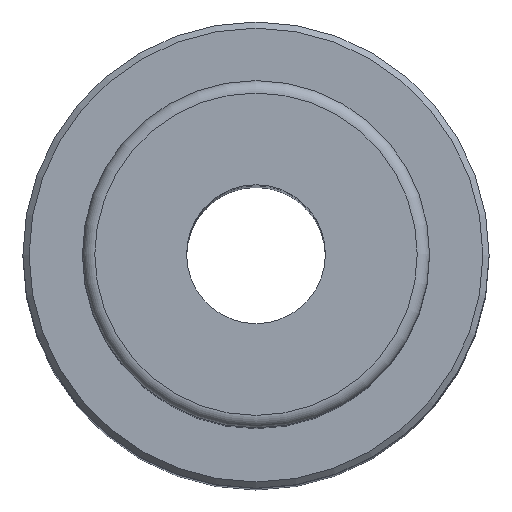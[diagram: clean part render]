
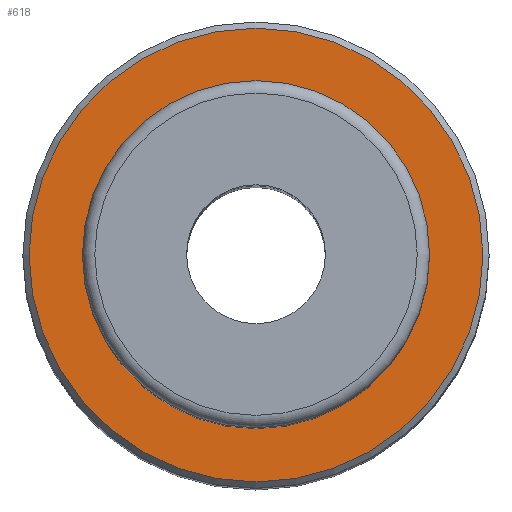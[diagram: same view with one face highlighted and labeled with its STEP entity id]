
A CAD part, top view. The second image highlights one B-rep face of the part: STEP entity #618.
In plain terms, the highlighted planar face has unit normal (0, 0, 1).
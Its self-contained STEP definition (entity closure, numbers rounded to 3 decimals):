
#511 = EDGE_CURVE('',#512,#512,#514,.T.);
#512 = VERTEX_POINT('',#513);
#513 = CARTESIAN_POINT('',(11.2,0.,168.));
#514 = CIRCLE('',#515,11.2);
#515 = AXIS2_PLACEMENT_3D('',#516,#517,#518);
#516 = CARTESIAN_POINT('',(0.,0.,168.));
#517 = DIRECTION('',(0.,0.,1.));
#518 = DIRECTION('',(1.,0.,0.));
#618 = ADVANCED_FACE('',(#619,#630),#633,.T.);
#619 = FACE_BOUND('',#620,.T.);
#620 = EDGE_LOOP('',(#621));
#621 = ORIENTED_EDGE('',*,*,#622,.T.);
#622 = EDGE_CURVE('',#623,#623,#625,.T.);
#623 = VERTEX_POINT('',#624);
#624 = CARTESIAN_POINT('',(36.6,0.,168.));
#625 = CIRCLE('',#626,36.6);
#626 = AXIS2_PLACEMENT_3D('',#627,#628,#629);
#627 = CARTESIAN_POINT('',(0.,0.,168.));
#628 = DIRECTION('',(0.,0.,1.));
#629 = DIRECTION('',(1.,0.,0.));
#630 = FACE_BOUND('',#631,.T.);
#631 = EDGE_LOOP('',(#632));
#632 = ORIENTED_EDGE('',*,*,#511,.F.);
#633 = PLANE('',#634);
#634 = AXIS2_PLACEMENT_3D('',#635,#636,#637);
#635 = CARTESIAN_POINT('',(0.,0.,168.));
#636 = DIRECTION('',(0.,0.,1.));
#637 = DIRECTION('',(1.,0.,0.));
